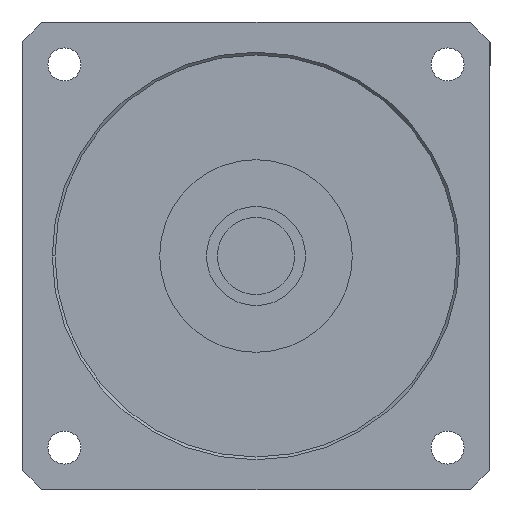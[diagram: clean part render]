
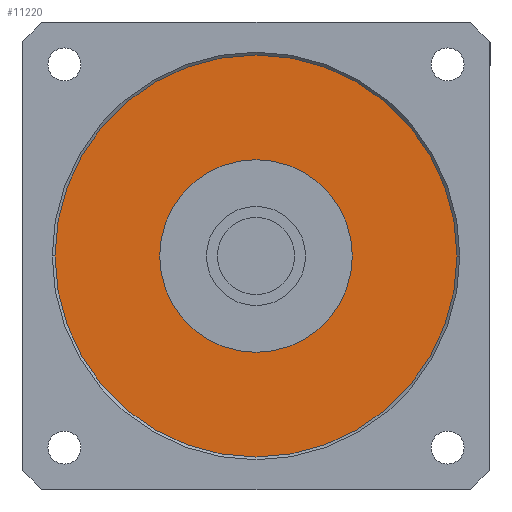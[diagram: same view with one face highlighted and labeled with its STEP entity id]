
A CAD part, left-side view. The second image highlights one B-rep face of the part: STEP entity #11220.
In plain terms, the highlighted planar face has unit normal (-1, 0, 0) as drawn and (0, 0, -1) by its records, which use the part's own axes.
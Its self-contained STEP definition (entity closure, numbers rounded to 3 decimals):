
#10660=CARTESIAN_POINT('',(0.,17.5,-36.5));
#10670=VERTEX_POINT('',#10660);
#10700=CARTESIAN_POINT('',(0.,0.,
-36.5));
#10710=DIRECTION('',(0.,0.,1.));
#10720=DIRECTION('',(0.,1.,0.));
#10730=AXIS2_PLACEMENT_3D('',#10700,#10710,#10720);
#10740=CIRCLE('',#10730,17.5);
#10750=CARTESIAN_POINT('',(0.,-17.5,-36.5));
#10760=VERTEX_POINT('',#10750);
#10770=EDGE_CURVE('',#10670,#10760,#10740,.T.);
#10970=CARTESIAN_POINT('',(0.,-36.51,-36.5));
#10980=DIRECTION('',(0.,0.,-1.));
#10990=DIRECTION('',(0.,-1.,0.));
#11000=AXIS2_PLACEMENT_3D('',#10970,#10980,#10990);
#11010=PLANE('',#11000);
#11020=ORIENTED_EDGE('',*,*,#10770,.T.);
#11030=EDGE_CURVE('',#10760,#10670,#10740,.T.);
#11040=ORIENTED_EDGE('',*,*,#11030,.T.);
#11050=EDGE_LOOP('',(#11040,#11020));
#11060=FACE_BOUND('',#11050,.T.);
#11070=CARTESIAN_POINT('',(0.,0.,
-36.5));
#11080=DIRECTION('',(0.,0.,1.));
#11090=DIRECTION('',(0.,1.,0.));
#11100=AXIS2_PLACEMENT_3D('',#11070,#11080,#11090);
#11110=CIRCLE('',#11100,36.51);
#11120=CARTESIAN_POINT('',(0.,36.51,-36.5));
#11130=VERTEX_POINT('',#11120);
#11140=CARTESIAN_POINT('',(0.,-36.51,-36.5));
#11150=VERTEX_POINT('',#11140);
#11160=EDGE_CURVE('',#11130,#11150,#11110,.T.);
#11170=ORIENTED_EDGE('',*,*,#11160,.F.);
#11180=EDGE_CURVE('',#11150,#11130,#11110,.T.);
#11190=ORIENTED_EDGE('',*,*,#11180,.F.);
#11200=EDGE_LOOP('',(#11190,#11170));
#11210=FACE_OUTER_BOUND('',#11200,.T.);
#11220=ADVANCED_FACE('',(#11060,#11210),#11010,.T.);
